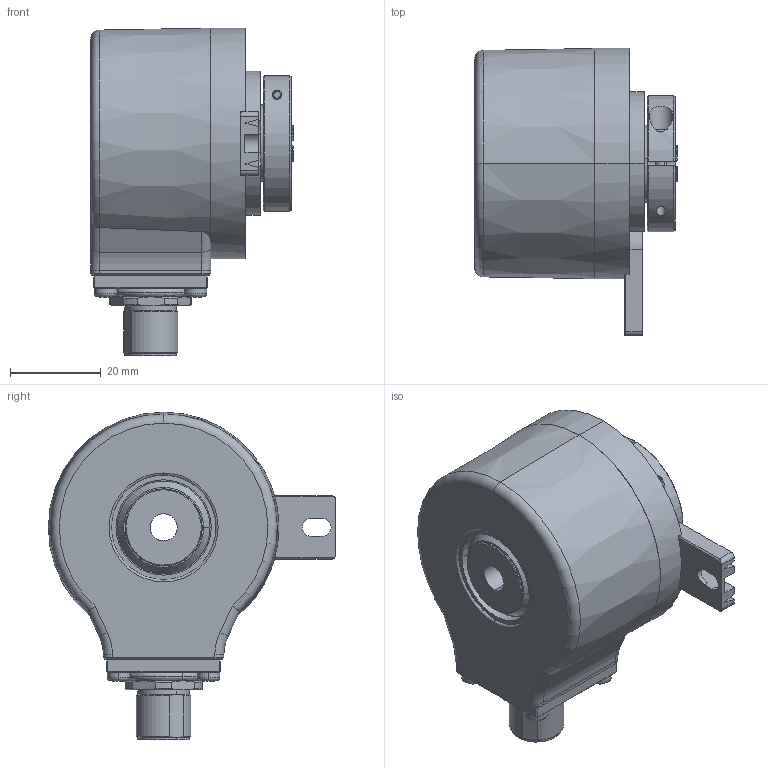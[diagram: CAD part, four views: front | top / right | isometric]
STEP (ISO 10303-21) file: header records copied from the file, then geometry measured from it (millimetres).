
FILE_DESCRIPTION (( 'STEP AP203' ), '1' );
FILE_NAME ('8.5020.217R.XXXX.STEP', '2017-04-05T12:26:02', ( '' ), ( '' ), 'SwSTEP 2.0', 'SolidWorks 2017', '' );
FILE_SCHEMA (( 'CONFIG_CONTROL_DESIGN' ));
Length unit declared in the file: millimetre
Products named in the file (1): 8.5020.217R.XXXX
Bounding box: 44.7 x 63.3 x 72.2 mm (x, y, z)
Surface area: 38048.1 mm2 (no closed solid volume)
Topology: 0 solids, 24 shells, 822 faces, 2013 edges, 1241 vertices
Faces by surface type: plane 288, cylinder 251, cone 140, torus 69, sphere 48, bspline 26
Entity records: 25942 total; most frequent: CARTESIAN_POINT 6874, DIRECTION 4162, ORIENTED_EDGE 3802, EDGE_CURVE 1909, AXIS2_PLACEMENT_3D 1683, VERTEX_POINT 1187, EDGE_LOOP 956, CIRCLE 886
